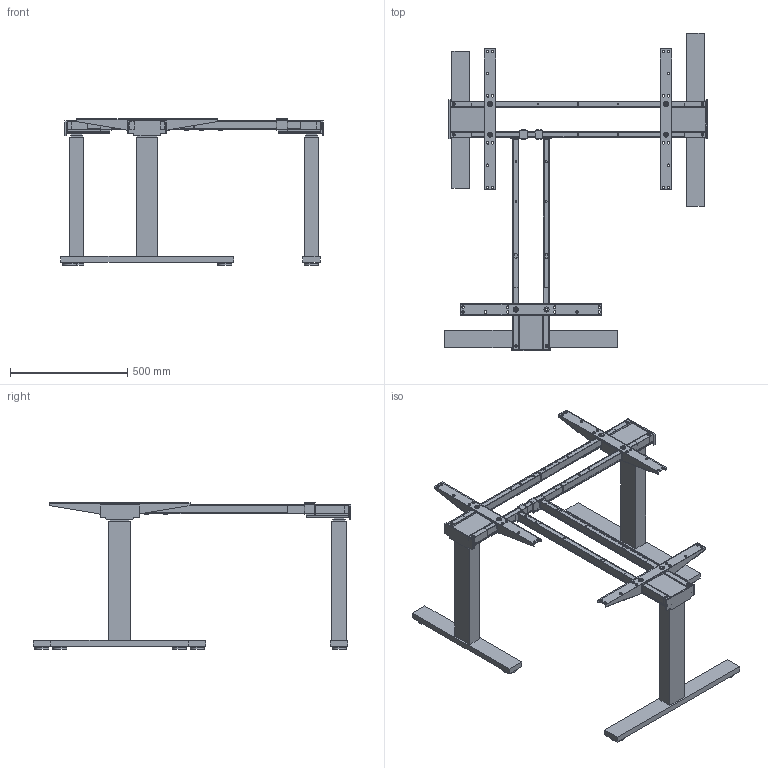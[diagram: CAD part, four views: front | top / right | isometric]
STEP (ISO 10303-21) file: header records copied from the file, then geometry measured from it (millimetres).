
FILE_DESCRIPTION( ( 'STEP AP214' ), '1' );
FILE_NAME( 'D:/Yug/2022/Actiforce_2022/QC/9311358.stp', '2022-03-02T07:51:11', ( '' ), ( '' ), ' ', 'PARTsolutions', ' ' );
FILE_SCHEMA( ( 'AUTOMOTIVE_DESIGN { 1 0 10303 214 1 1 1 1 }' ) );
Length unit declared in the file: millimetre
Products named in the file (11): 9311358_1100_1285_524; _foot_fix_l_1100_1285_524; _foot_fix_r_1100_1285_524; _Column_671_1100_1285_524; _9311397_12; _top_support_sf_570; _cover_cap_sf_670; _housing_plate_90xl; _crossbar_sf_570; _crossbar_holder_l; _crossbar_holder_r
Assembly tree (19 placements, depth 2):
  9311358_1100_1285_524
    _foot_fix_l_1100_1285_524
    _foot_fix_r_1100_1285_524  x2
    _Column_671_1100_1285_524  x3
    _9311397_12  x2
    _top_support_sf_570  x3
    _cover_cap_sf_670  x3
    _housing_plate_90xl
    _crossbar_sf_570  x2
    _crossbar_holder_l
    _crossbar_holder_r
Bounding box: 1117.5 x 1353 x 625 mm (x, y, z)
Volume: 17452124.5 mm3; surface area: 3155311.5 mm2
Topology: 19 solids, 19 shells, 684 faces, 1695 edges, 1133 vertices
Faces by surface type: plane 504, cylinder 180
Full cylindrical faces by diameter (mm): 5 x2, 6.5 x22, 6.8 x12, 9 x6, 10 x30, 10.5 x30, 12 x12, 12.7 x6, 13.46 x12, 17.06 x12, 17.4 x12, 22 x6, 59.84 x6
Entity records: 14880 total; most frequent: CARTESIAN_POINT 1941, DIRECTION 1926, ORIENTED_EDGE 1748, EDGE_CURVE 874, EDGE_LOOP 674, LINE 664, VECTOR 664, VERTEX_POINT 646
